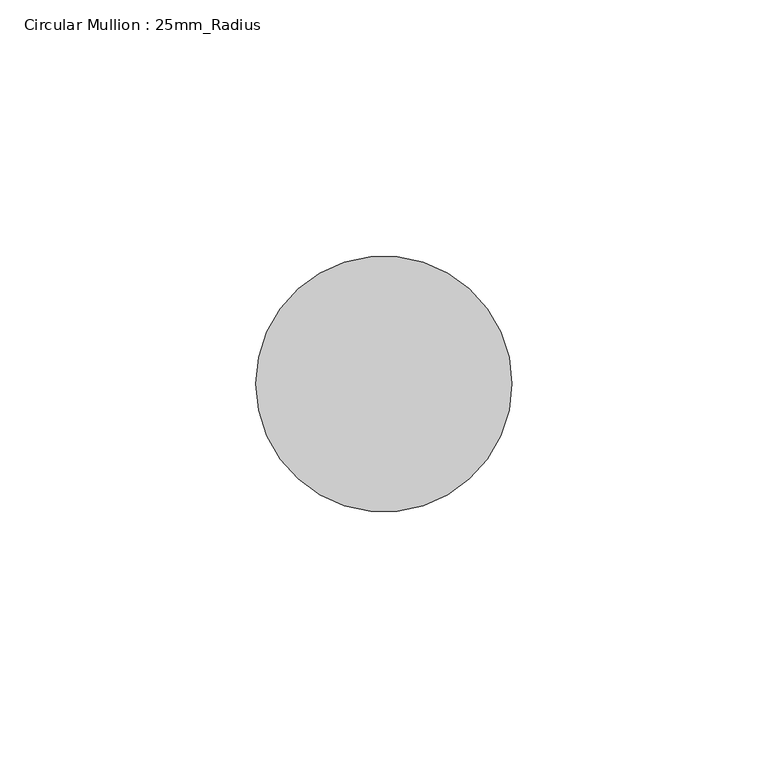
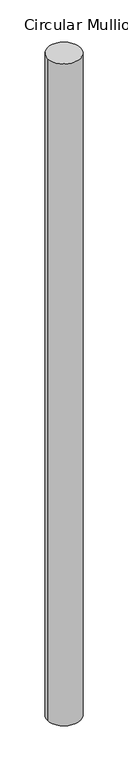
"""IFC4 building model written with IfcOpenShell, lengths in millimetres: member geometry, Circular Mullion : 25mm_Radius."""

from ifc_helpers import new_model, si_unit, point, frame, frame_2d, origin, place, context, project, spatial, circle_curve, trimmed, segment, composite_curve, outline, extrude, source, transform, mapped, element, save


def circular_mullion_25mm_radius_24835326(model_context):
    return source(origin(), model_context, "Body", "SweptSolid", [
        extrude(outline(composite_curve([segment(trimmed(circle_curve(frame_2d((-25.0, 0.0)), 25.0), [point((0.0, 0.0))], [point((-50.0, 0.0))], False, "CARTESIAN"), True, "CONTINUOUS"), segment(trimmed(circle_curve(frame_2d((-25.0, 0.0)), 25.0), [point((-50.0, 0.0))], [point((0.0, 0.0))], False, "CARTESIAN"), True, "CONTINUOUS")], self_intersect=False)), frame((0.0, 0.0, -1060.0), z_axis=(0.0, 0.0, 1.0), x_axis=(1.0, 0.0, 0.0)), (0.0, 0.0, 1.0), 1060.0),
    ])


if __name__ == "__main__":
    model = new_model("IFC4")
    model_context = context("Model", 3, world=origin())
    ifc_project = project(units=[si_unit("LENGTHUNIT", "METRE", prefix="MILLI")], contexts=[model_context])
    site = spatial("IfcSite", under=ifc_project)
    building = spatial("IfcBuilding", under=site)
    placement = place(None, origin())
    circular_mullion_25mm_radius_shape = circular_mullion_25mm_radius_24835326(model_context)
    element("IfcMember", 1, ObjectType="Circular Mullion : 25mm_Radius", at=placement, inside=building, context=model_context, shape_type="MappedRepresentation", body=[
        mapped(circular_mullion_25mm_radius_shape, transform((0.0, 0.0, 0.0), x_axis=(1.0, 0.0, 0.0), y_axis=(0.0, 1.0, 0.0), z_axis=(0.0, 0.0, 1.0))),
    ])
    save(model, "model.ifc")
